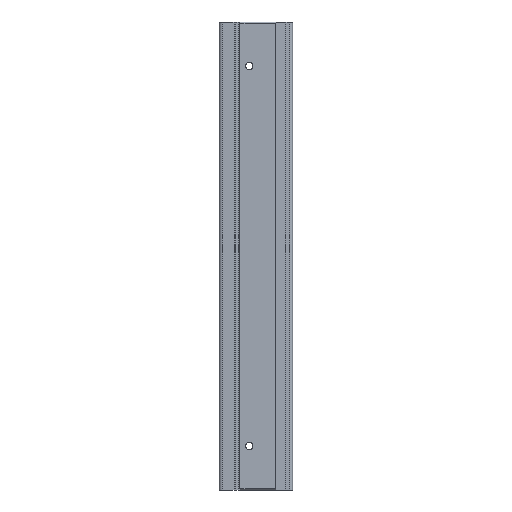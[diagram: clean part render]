
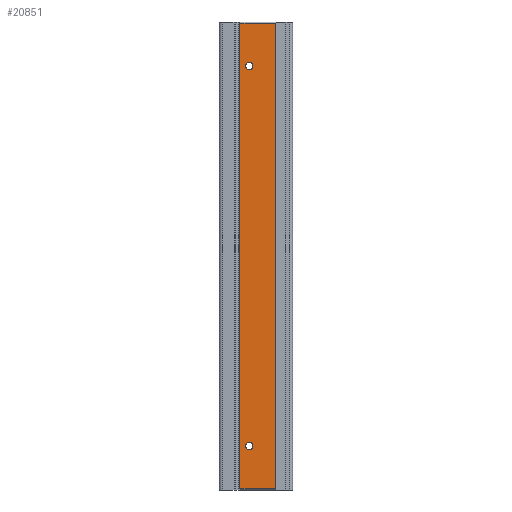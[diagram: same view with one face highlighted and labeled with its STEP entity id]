
A CAD part, left-side view. The second image highlights one B-rep face of the part: STEP entity #20851.
In plain terms, the highlighted planar face has unit normal (-1, 0, 0).
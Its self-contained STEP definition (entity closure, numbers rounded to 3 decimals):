
#1116 = DIRECTION ( 'NONE',  ( -1., 0., 0. ) ) ;
#1473 = CARTESIAN_POINT ( 'NONE',  ( -28., 14.8, 63.75 ) ) ;
#1876 = ORIENTED_EDGE ( 'NONE', *, *, #28626, .F. ) ;
#2250 = EDGE_LOOP ( 'NONE', ( #26787, #1876 ) ) ;
#2409 = VERTEX_POINT ( 'NONE', #6847 ) ;
#3130 = AXIS2_PLACEMENT_3D ( 'NONE', #11436, #27979, #13846 ) ;
#3757 = DIRECTION ( 'NONE',  ( -1., 0., 0. ) ) ;
#4573 = FACE_OUTER_BOUND ( 'NONE', #27513, .T. ) ;
#4932 = CARTESIAN_POINT ( 'NONE',  ( -28., 18., 80. ) ) ;
#4974 = VERTEX_POINT ( 'NONE', #5542 ) ;
#5198 = DIRECTION ( 'NONE',  ( 0., 0., -1. ) ) ;
#5542 = CARTESIAN_POINT ( 'NONE',  ( -28., 14.8, -66.25 ) ) ;
#6578 = VERTEX_POINT ( 'NONE', #15002 ) ;
#6730 = VECTOR ( 'NONE', #7359, 1000. ) ;
#6787 = AXIS2_PLACEMENT_3D ( 'NONE', #22971, #8707, #25323 ) ;
#6847 = CARTESIAN_POINT ( 'NONE',  ( -28., 14.8, -63.75 ) ) ;
#6867 = EDGE_CURVE ( 'NONE', #16358, #24802, #18451, .T. ) ;
#6963 = EDGE_CURVE ( 'NONE', #22358, #24338, #16205, .T. ) ;
#7187 = EDGE_LOOP ( 'NONE', ( #9345, #27860 ) ) ;
#7328 = EDGE_CURVE ( 'NONE', #6578, #8030, #13581, .T. ) ;
#7359 = DIRECTION ( 'NONE',  ( 0., 0., -1. ) ) ;
#7374 = EDGE_CURVE ( 'NONE', #24802, #16358, #24734, .T. ) ;
#7597 = CARTESIAN_POINT ( 'NONE',  ( -28., 5.8, 80. ) ) ;
#7902 = ORIENTED_EDGE ( 'NONE', *, *, #24225, .F. ) ;
#8030 = VERTEX_POINT ( 'NONE', #24269 ) ;
#8507 = CARTESIAN_POINT ( 'NONE',  ( -28., 14.8, -65. ) ) ;
#8707 = DIRECTION ( 'NONE',  ( -1., 0., 0. ) ) ;
#9345 = ORIENTED_EDGE ( 'NONE', *, *, #7374, .F. ) ;
#10899 = DIRECTION ( 'NONE',  ( 0., 0., 1. ) ) ;
#10922 = LINE ( 'NONE', #7597, #28294 ) ;
#11436 = CARTESIAN_POINT ( 'NONE',  ( -28., 14.8, 65. ) ) ;
#11677 = FACE_BOUND ( 'NONE', #7187, .T. ) ;
#13581 = LINE ( 'NONE', #20394, #25447 ) ;
#13809 = LINE ( 'NONE', #4932, #6730 ) ;
#13846 = DIRECTION ( 'NONE',  ( 0., 0., 1. ) ) ;
#15002 = CARTESIAN_POINT ( 'NONE',  ( -28., 5.8, 79.5 ) ) ;
#15384 = ORIENTED_EDGE ( 'NONE', *, *, #7328, .T. ) ;
#15398 = CARTESIAN_POINT ( 'NONE',  ( -28., 0., 80. ) ) ;
#15458 = VECTOR ( 'NONE', #26069, 1000. ) ;
#16038 = EDGE_CURVE ( 'NONE', #8030, #22358, #13809, .T. ) ;
#16205 = LINE ( 'NONE', #25964, #15458 ) ;
#16358 = VERTEX_POINT ( 'NONE', #1473 ) ;
#17275 = FACE_BOUND ( 'NONE', #2250, .T. ) ;
#17819 = DIRECTION ( 'NONE',  ( 0., 0., 1. ) ) ;
#18075 = CARTESIAN_POINT ( 'NONE',  ( -28., 14.8, -65. ) ) ;
#18347 = AXIS2_PLACEMENT_3D ( 'NONE', #8507, #25110, #10899 ) ;
#18451 = CIRCLE ( 'NONE', #3130, 1.25 ) ;
#18527 = AXIS2_PLACEMENT_3D ( 'NONE', #15398, #1116, #17819 ) ;
#19853 = CIRCLE ( 'NONE', #18347, 1.25 ) ;
#19989 = CARTESIAN_POINT ( 'NONE',  ( -28., 5.8, -79.5 ) ) ;
#20184 = DIRECTION ( 'NONE',  ( 0., 1., 0. ) ) ;
#20394 = CARTESIAN_POINT ( 'NONE',  ( -28., 0., 79.5 ) ) ;
#20506 = DIRECTION ( 'NONE',  ( 0., 0., 1. ) ) ;
#20851 = ADVANCED_FACE ( 'NONE', ( #11677, #17275, #4573 ), #27184, .T. ) ;
#21431 = EDGE_CURVE ( 'NONE', #2409, #4974, #19853, .T. ) ;
#22358 = VERTEX_POINT ( 'NONE', #24609 ) ;
#22971 = CARTESIAN_POINT ( 'NONE',  ( -28., 14.8, 65. ) ) ;
#24225 = EDGE_CURVE ( 'NONE', #6578, #24338, #10922, .T. ) ;
#24269 = CARTESIAN_POINT ( 'NONE',  ( -28., 18., 79.5 ) ) ;
#24338 = VERTEX_POINT ( 'NONE', #19989 ) ;
#24609 = CARTESIAN_POINT ( 'NONE',  ( -28., 18., -79.5 ) ) ;
#24734 = CIRCLE ( 'NONE', #6787, 1.25 ) ;
#24802 = VERTEX_POINT ( 'NONE', #26906 ) ;
#25110 = DIRECTION ( 'NONE',  ( -1., 0., 0. ) ) ;
#25323 = DIRECTION ( 'NONE',  ( 0., 0., 1. ) ) ;
#25405 = ORIENTED_EDGE ( 'NONE', *, *, #16038, .T. ) ;
#25447 = VECTOR ( 'NONE', #20184, 1000. ) ;
#25964 = CARTESIAN_POINT ( 'NONE',  ( -28., 5.8, -79.5 ) ) ;
#26069 = DIRECTION ( 'NONE',  ( 0., -1., 0. ) ) ;
#26787 = ORIENTED_EDGE ( 'NONE', *, *, #21431, .F. ) ;
#26906 = CARTESIAN_POINT ( 'NONE',  ( -28., 14.8, 66.25 ) ) ;
#27184 = PLANE ( 'NONE',  #18527 ) ;
#27264 = AXIS2_PLACEMENT_3D ( 'NONE', #18075, #3757, #20506 ) ;
#27513 = EDGE_LOOP ( 'NONE', ( #7902, #15384, #25405, #27589 ) ) ;
#27589 = ORIENTED_EDGE ( 'NONE', *, *, #6963, .T. ) ;
#27860 = ORIENTED_EDGE ( 'NONE', *, *, #6867, .F. ) ;
#27979 = DIRECTION ( 'NONE',  ( -1., 0., 0. ) ) ;
#28294 = VECTOR ( 'NONE', #5198, 1000. ) ;
#28626 = EDGE_CURVE ( 'NONE', #4974, #2409, #29799, .T. ) ;
#29799 = CIRCLE ( 'NONE', #27264, 1.25 ) ;
